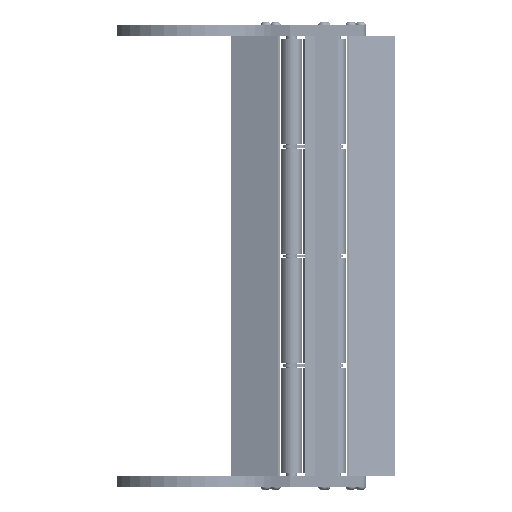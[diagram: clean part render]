
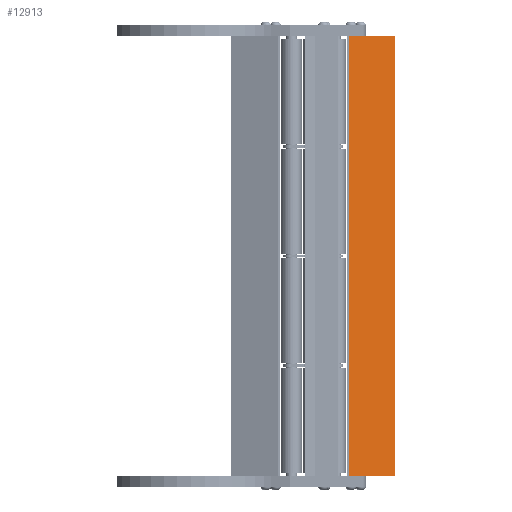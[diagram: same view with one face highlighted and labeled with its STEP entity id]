
A CAD part, front view. The second image highlights one B-rep face of the part: STEP entity #12913.
In plain terms, the highlighted planar face has unit normal (0.342, -0.94, 0).
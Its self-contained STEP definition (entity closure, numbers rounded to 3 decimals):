
#32 = VERTEX_POINT ( 'NONE', #15950 ) ;
#453 = ORIENTED_EDGE ( 'NONE', *, *, #16263, .T. ) ;
#1057 = VERTEX_POINT ( 'NONE', #10741 ) ;
#1154 = LINE ( 'NONE', #5583, #6862 ) ;
#1274 = FACE_OUTER_BOUND ( 'NONE', #10531, .T. ) ;
#1731 = DIRECTION ( 'NONE',  ( 0., 0., -1. ) ) ;
#1845 = EDGE_CURVE ( 'NONE', #32, #1057, #17713, .T. ) ;
#2002 = ORIENTED_EDGE ( 'NONE', *, *, #1845, .T. ) ;
#2478 = VERTEX_POINT ( 'NONE', #7838 ) ;
#2903 = DIRECTION ( 'NONE',  ( 0., 0., -1. ) ) ;
#3958 = PLANE ( 'NONE',  #4278 ) ;
#4278 = AXIS2_PLACEMENT_3D ( 'NONE', #14686, #11759, #8643 ) ;
#4347 = CARTESIAN_POINT ( 'NONE',  ( 1.655, 0., 316. ) ) ;
#4866 = LINE ( 'NONE', #8773, #15402 ) ;
#5393 = ORIENTED_EDGE ( 'NONE', *, *, #10875, .F. ) ;
#5583 = CARTESIAN_POINT ( 'NONE',  ( 35., 12.137, 0. ) ) ;
#6862 = VECTOR ( 'NONE', #7238, 1000. ) ;
#7238 = DIRECTION ( 'NONE',  ( 0.94, 0.342, 0. ) ) ;
#7838 = CARTESIAN_POINT ( 'NONE',  ( 35., 12.137, 0. ) ) ;
#8643 = DIRECTION ( 'NONE',  ( -0.94, -0.342, 0. ) ) ;
#8663 = VECTOR ( 'NONE', #2903, 1000. ) ;
#8773 = CARTESIAN_POINT ( 'NONE',  ( 1.655, 0., 316. ) ) ;
#10026 = EDGE_CURVE ( 'NONE', #11023, #2478, #11843, .T. ) ;
#10531 = EDGE_LOOP ( 'NONE', ( #453, #16489, #5393, #2002 ) ) ;
#10741 = CARTESIAN_POINT ( 'NONE',  ( 1.655, 0., 0. ) ) ;
#10801 = DIRECTION ( 'NONE',  ( 0.94, 0.342, 0. ) ) ;
#10875 = EDGE_CURVE ( 'NONE', #32, #11023, #4866, .T. ) ;
#11023 = VERTEX_POINT ( 'NONE', #11173 ) ;
#11173 = CARTESIAN_POINT ( 'NONE',  ( 35., 12.137, 316. ) ) ;
#11759 = DIRECTION ( 'NONE',  ( -0.342, 0.94, 0. ) ) ;
#11843 = LINE ( 'NONE', #18003, #13471 ) ;
#12913 = ADVANCED_FACE ( 'NONE', ( #1274 ), #3958, .F. ) ;
#13471 = VECTOR ( 'NONE', #1731, 1000. ) ;
#14686 = CARTESIAN_POINT ( 'NONE',  ( 35., 12.137, 316. ) ) ;
#15402 = VECTOR ( 'NONE', #10801, 1000. ) ;
#15950 = CARTESIAN_POINT ( 'NONE',  ( 1.655, 0., 316. ) ) ;
#16263 = EDGE_CURVE ( 'NONE', #1057, #2478, #1154, .T. ) ;
#16489 = ORIENTED_EDGE ( 'NONE', *, *, #10026, .F. ) ;
#17713 = LINE ( 'NONE', #4347, #8663 ) ;
#18003 = CARTESIAN_POINT ( 'NONE',  ( 35., 12.137, 316. ) ) ;
